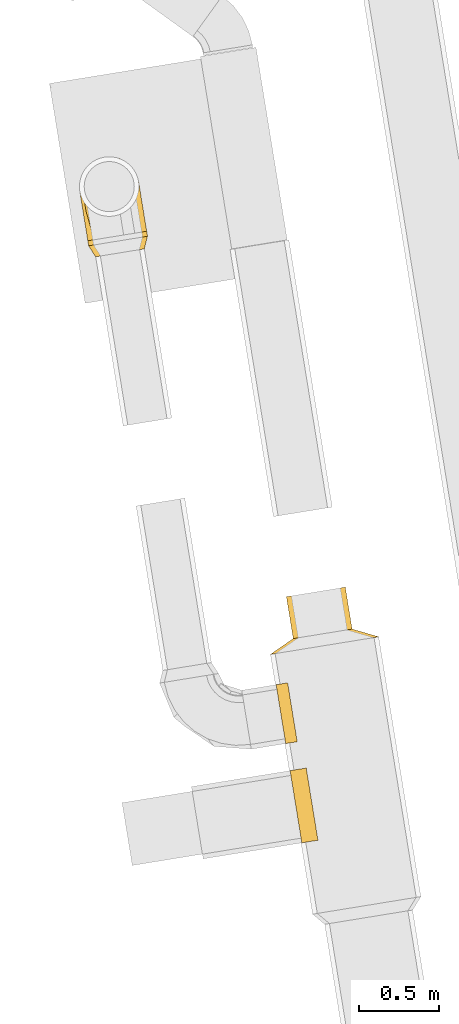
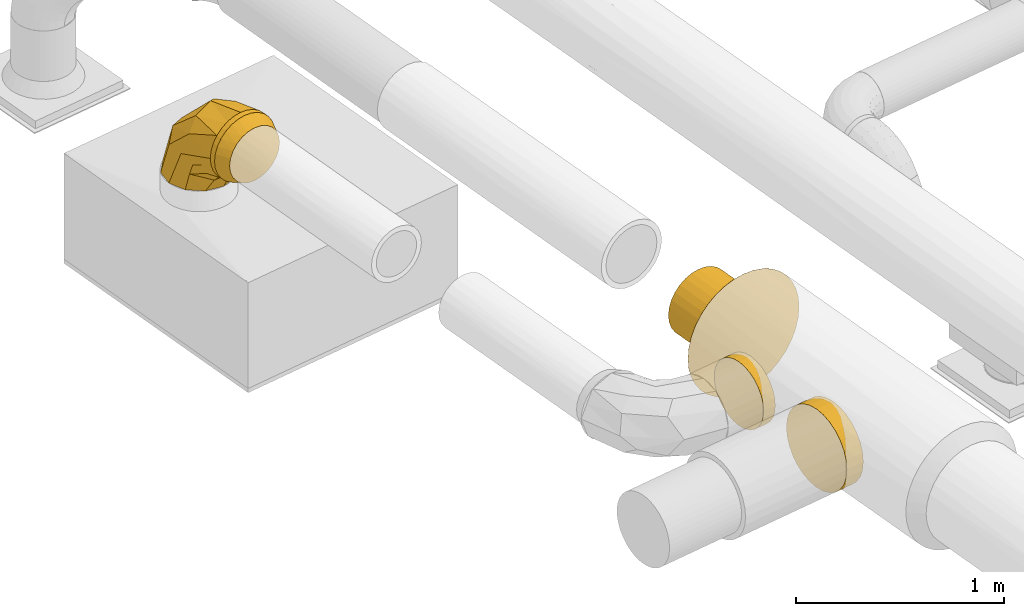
# One storey, part 11 of 39: 7 coverings.
"""IFC2X3 building model written with IfcOpenShell, lengths in millimetres."""

from ifc_helpers import new_model, entity, si_unit, converted_unit, derived_unit, direction, frame, origin, origin_with_axes, place, context, subcontext, project, spatial, faceted_brep, type_object, element, save


model = new_model("IFC2X3")

# Units and contexts
plan_context = context("Plan", 3, precision=1e-05, world=origin_with_axes())
model_context = context("Model", 3, precision=0.01, world=origin(), true_north=direction((6.12323399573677e-17, 1.0)))
body_context = subcontext(model_context, "Body", "Model", "MODEL_VIEW")
ifc_project = project(units=[converted_unit("PLANEANGLEUNIT", "DEGREE", entity("IfcPositiveLengthMeasure", 0.0174532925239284), si_unit("PLANEANGLEUNIT", "RADIAN"), dimensions=[0, 0, 0, 0, 0, 0, 0]), si_unit("AREAUNIT", "SQUARE_METRE"), si_unit("LENGTHUNIT", "METRE", prefix="MILLI"), si_unit("MASSUNIT", "GRAM", prefix="KILO"), si_unit("POWERUNIT", "WATT"), si_unit("PRESSUREUNIT", "PASCAL", prefix="KILO"), si_unit("FORCEUNIT", "NEWTON", prefix="KILO"), si_unit("ELECTRICVOLTAGEUNIT", "VOLT"), si_unit("ELECTRICCURRENTUNIT", "AMPERE"), si_unit("THERMODYNAMICTEMPERATUREUNIT", "DEGREE_CELSIUS"), si_unit("TIMEUNIT", "SECOND"), si_unit("VOLUMEUNIT", "CUBIC_METRE"), derived_unit("LINEARVELOCITYUNIT", [(si_unit("LENGTHUNIT", "METRE"), 1), (si_unit("TIMEUNIT", "SECOND"), -1)]), derived_unit("VOLUMETRICFLOWRATEUNIT", [(si_unit("VOLUMEUNIT", "CUBIC_METRE"), 1), (si_unit("TIMEUNIT", "SECOND"), -1)]), derived_unit("THERMALTRANSMITTANCEUNIT", [(si_unit("POWERUNIT", "WATT"), 1), (si_unit("THERMODYNAMICTEMPERATUREUNIT", "KELVIN"), -1), (si_unit("AREAUNIT", "SQUARE_METRE"), -1)]), derived_unit("SOUNDPRESSUREUNIT", [(si_unit("PRESSUREUNIT", "PASCAL"), 1)])], contexts=[model_context, plan_context])

# Site, building, storey
site_placement = place(None, frame((-0.00071070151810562, 0.00438415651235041, 0.0), z_axis=(0.0, 0.0, 1.0), x_axis=(-0.160236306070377, 0.987078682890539, 0.0)))
site = spatial("IfcSite", under=ifc_project, at=site_placement, Name="Default", CompositionType="ELEMENT")
building_placement = place(site_placement, origin_with_axes())
building = spatial("IfcBuilding", under=site, at=building_placement, CompositionType="ELEMENT")
storey_placement = place(building_placement, frame((0.0, 0.0, 58999.9999999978), z_axis=(0.0, 0.0, 1.0), x_axis=(1.0, 0.0, 0.0)))
storey = spatial("IfcBuildingStorey", under=building, at=storey_placement, Name="Nivå F", CompositionType="ELEMENT", Elevation=58999.9999999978)

# Coverings
covering_type = type_object("IfcCoveringType", Name="Duct Insulation:EI 60-30", PredefinedType="INSULATION")
covering_1_placement = place(storey_placement, frame((779697.619644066, -501493.804889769, 2940.90472776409), z_axis=(0.0, 0.0, 1.0), x_axis=(1.0, 0.0, 0.0)))
element("IfcCovering", 1, at=covering_1_placement, inside=storey, type_object=covering_type, Name="Duct Insulation:EI 60-30", ObjectType="Duct Insulation:EI 60-30", PredefinedType="INSULATION", context=body_context, shape_type="Brep", body=[
    faceted_brep([(0.0, 42.5018692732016, 72.1909343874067), (0.0, 20.1636095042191, 107.742071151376), (0.0, 6.29628870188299, 147.372597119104), (0.0, 1.59527223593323, 189.095272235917), (0.0, 6.29628870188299, 230.817947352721), (0.0, 20.1636095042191, 270.448473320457), (0.0, 42.5018692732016, 305.999610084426), (0.0, 72.1909343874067, 335.688675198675), (0.0, 107.742071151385, 358.026934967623), (0.0, 147.372597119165, 371.894255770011), (0.0, 189.095272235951, 376.595272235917), (0.0, 230.817947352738, 371.894255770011), (0.0, 270.448473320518, 358.026934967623), (0.0, 305.999610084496, 335.688675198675), (0.0, 335.688675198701, 305.999610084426), (0.0, 358.026934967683, 270.448473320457), (0.0, 371.894255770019, 230.817947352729), (0.0, 376.595272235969, 189.095272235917), (0.0, 371.894255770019, 147.372597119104), (0.0, 358.026934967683, 107.742071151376), (0.0, 335.688675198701, 72.1909343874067), (0.0, 305.999610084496, 42.5018692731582), (0.0, 270.448473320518, 20.1636095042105), (0.0, 230.817947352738, 6.29628870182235), (0.0, 189.095272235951, 1.5952722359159), (0.0, 147.372597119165, 6.29628870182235), (0.0, 107.742071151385, 20.1636095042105), (0.0, 72.1909343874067, 42.5018692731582), (32.0, 6.29628870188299, 147.372597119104), (32.0, 20.1636095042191, 107.742071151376), (32.0, 42.5018692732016, 72.1909343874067), (32.0, 72.1909343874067, 42.5018692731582), (32.0, 107.742071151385, 20.1636095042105), (32.0, 147.372597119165, 6.29628870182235), (32.0, 189.095272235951, 1.5952722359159), (32.0, 230.817947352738, 6.29628870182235), (32.0, 270.448473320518, 20.1636095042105), (32.0, 305.999610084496, 42.5018692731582), (32.0, 335.688675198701, 72.1909343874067), (32.0, 358.026934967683, 107.742071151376), (32.0, 371.894255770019, 147.372597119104), (32.0, 376.595272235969, 189.095272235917), (32.0, 371.894255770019, 230.817947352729), (32.0, 358.026934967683, 270.448473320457), (32.0, 335.688675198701, 305.999610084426), (32.0, 305.999610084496, 335.688675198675), (32.0, 270.448473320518, 358.026934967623), (32.0, 230.817947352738, 371.894255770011), (32.0, 189.095272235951, 376.595272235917), (32.0, 147.372597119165, 371.894255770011), (32.0, 107.742071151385, 358.026934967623), (32.0, 72.1909343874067, 335.688675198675), (32.0, 42.5018692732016, 305.999610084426), (32.0, 20.1636095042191, 270.448473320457), (32.0, 6.29628870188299, 230.817947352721), (32.0, 1.59527223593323, 189.095272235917)], [[[0, 1, 2, 3, 4, 5, 6, 7, 8, 9, 10, 11, 12, 13, 14, 15, 16, 17, 18, 19, 20, 21, 22, 23, 24, 25, 26, 27]], [[28, 29, 30, 31, 32, 33, 34, 35, 36, 37, 38, 39, 40, 41, 42, 43, 44, 45, 46, 47, 48, 49, 50, 51, 52, 53, 54, 55]], [[17, 41, 40, 18]], [[40, 39, 19, 18]], [[38, 20, 19, 39]], [[38, 37, 21, 20]], [[37, 36, 22, 21]], [[36, 35, 23, 22]], [[24, 23, 35, 34]], [[24, 34, 33, 25]], [[33, 32, 26, 25]], [[31, 27, 26, 32]], [[31, 30, 0, 27]], [[0, 30, 29, 1]], [[28, 55, 3, 2]], [[1, 29, 28, 2]], [[3, 55, 54, 4]], [[54, 53, 5, 4]], [[52, 6, 5, 53]], [[52, 51, 7, 6]], [[7, 51, 50, 8]], [[50, 49, 9, 8]], [[48, 10, 9, 49]], [[10, 48, 47, 11]], [[47, 46, 12, 11]], [[45, 13, 12, 46]], [[45, 44, 14, 13]], [[14, 44, 43, 15]], [[43, 42, 16, 15]], [[41, 17, 16, 42]]]),
])
covering_2_placement = place(storey_placement, frame((779622.619644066, -501493.804889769, 2940.90472776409), z_axis=(0.0, 0.0, 1.0), x_axis=(1.0, 0.0, 0.0)))
element("IfcCovering", 2, at=covering_2_placement, inside=storey, type_object=covering_type, Name="Duct Insulation:EI 60-30", ObjectType="Duct Insulation:EI 60-30", PredefinedType="INSULATION", context=body_context, shape_type="Brep", body=[
    faceted_brep([(0.0, 344.095272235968, 189.095272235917), (0.0, 338.813775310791, 148.978320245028), (0.0, 323.329209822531, 111.595272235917), (0.0, 298.696823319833, 79.4937211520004), (0.0, 266.59527223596, 54.8613346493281), (0.0, 229.21222422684, 39.3767691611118), (0.0, 189.095272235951, 34.0952722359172), (0.0, 148.978320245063, 39.3767691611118), (0.0, 111.595272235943, 54.8613346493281), (0.0, 79.4937211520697, 79.4937211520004), (0.0, 54.8613346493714, 111.595272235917), (0.0, 39.3767691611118, 148.978320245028), (0.0, 34.0952722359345, 189.095272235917), (0.0, 39.3767691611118, 229.212224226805), (0.0, 54.8613346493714, 266.595272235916), (0.0, 79.4937211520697, 298.696823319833), (0.0, 111.595272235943, 323.329209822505), (0.0, 148.978320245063, 338.813775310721), (0.0, 189.095272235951, 344.095272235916), (0.0, 229.21222422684, 338.813775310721), (0.0, 266.59527223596, 323.329209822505), (0.0, 298.696823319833, 298.696823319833), (0.0, 323.329209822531, 266.595272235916), (0.0, 338.813775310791, 229.212224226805), (75.0, 147.372597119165, 371.894255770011), (75.0, 107.742071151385, 358.026934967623), (75.0, 72.1909343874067, 335.688675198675), (75.0, 42.5018692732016, 305.999610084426), (75.0, 20.1636095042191, 270.448473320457), (75.0, 6.29628870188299, 230.817947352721), (75.0, 1.59527223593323, 189.095272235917), (75.0, 6.29628870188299, 147.372597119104), (75.0, 20.1636095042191, 107.742071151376), (75.0, 42.5018692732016, 72.1909343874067), (75.0, 72.1909343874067, 42.5018692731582), (75.0, 107.742071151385, 20.1636095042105), (75.0, 147.372597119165, 6.29628870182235), (75.0, 189.095272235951, 1.5952722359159), (75.0, 230.817947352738, 6.29628870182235), (75.0, 270.448473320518, 20.1636095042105), (75.0, 305.999610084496, 42.5018692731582), (75.0, 335.688675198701, 72.1909343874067), (75.0, 358.026934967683, 107.742071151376), (75.0, 371.894255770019, 147.372597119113), (75.0, 376.595272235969, 189.095272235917), (75.0, 371.894255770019, 230.817947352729), (75.0, 358.026934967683, 270.448473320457), (75.0, 335.688675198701, 305.999610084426), (75.0, 305.999610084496, 335.688675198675), (75.0, 270.448473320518, 358.026934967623), (75.0, 230.817947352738, 371.894255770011), (75.0, 189.095272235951, 376.595272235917)], [[[0, 1, 2, 3, 4, 5, 6, 7, 8, 9, 10, 11, 12, 13, 14, 15, 16, 17, 18, 19, 20, 21, 22, 23]], [[24, 25, 26, 27, 28, 29, 30, 31, 32, 33, 34, 35, 36, 37, 38, 39, 40, 41, 42, 43, 44, 45, 46, 47, 48, 49, 50, 51]], [[5, 4, 39]], [[6, 5, 38]], [[37, 6, 38]], [[40, 39, 4]], [[5, 39, 38]], [[4, 3, 40]], [[41, 3, 2]], [[1, 0, 43]], [[42, 2, 1]], [[42, 41, 2]], [[43, 42, 1]], [[0, 44, 43]], [[3, 41, 40]], [[11, 10, 32]], [[12, 11, 31]], [[30, 12, 31]], [[33, 32, 10]], [[11, 32, 31]], [[10, 9, 33]], [[34, 9, 8]], [[7, 6, 36]], [[35, 8, 7]], [[35, 34, 8]], [[36, 35, 7]], [[6, 37, 36]], [[9, 34, 33]], [[17, 16, 25]], [[18, 17, 24]], [[51, 18, 24]], [[26, 25, 16]], [[17, 25, 24]], [[16, 15, 26]], [[27, 15, 14]], [[13, 12, 29]], [[28, 14, 13]], [[28, 27, 14]], [[29, 28, 13]], [[12, 30, 29]], [[15, 27, 26]], [[23, 22, 46]], [[0, 23, 45]], [[44, 0, 45]], [[47, 46, 22]], [[23, 46, 45]], [[22, 21, 47]], [[48, 21, 20]], [[19, 18, 50]], [[49, 20, 19]], [[49, 48, 20]], [[50, 49, 19]], [[18, 51, 50]], [[21, 48, 47]]]),
])
covering_3_placement = place(storey_placement, frame((776408.126843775, -501912.152424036, 2940.90472776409), z_axis=(0.0, 0.0, 1.0), x_axis=(1.0, 0.0, 0.0)))
element("IfcCovering", 3, at=covering_3_placement, inside=storey, type_object=covering_type, Name="Duct Insulation:EI 60-30", ObjectType="Duct Insulation:EI 60-30", PredefinedType="INSULATION", context=body_context, shape_type="Brep", body=[
    faceted_brep([(270.448473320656, 0.0, 20.1636095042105), (305.999610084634, 0.0, 42.5018692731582), (335.688675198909, 0.0, 72.1909343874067), (358.026934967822, 0.0, 107.742071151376), (371.894255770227, 0.0, 147.372597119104), (376.595272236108, 0.0, 189.095272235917), (371.894255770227, 0.0, 230.817947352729), (358.026934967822, 0.0, 270.448473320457), (335.688675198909, 0.0, 305.999610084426), (305.999610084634, 0.0, 335.688675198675), (270.448473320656, 0.0, 358.026934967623), (230.817947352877, 0.0, 371.894255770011), (189.095272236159, 0.0, 376.595272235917), (147.372597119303, 0.0, 371.894255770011), (107.742071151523, 0.0, 358.026934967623), (72.1909343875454, 0.0, 335.688675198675), (42.5018692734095, 0.0, 305.999610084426), (20.1636095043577, 0.0, 270.448473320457), (6.29628870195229, 0.0, 230.817947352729), (1.59527223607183, 0.0, 189.095272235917), (6.29628870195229, 0.0, 147.372597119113), (20.1636095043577, 0.0, 107.742071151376), (42.5018692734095, 0.0, 72.1909343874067), (72.1909343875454, 0.0, 42.5018692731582), (107.742071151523, 0.0, 20.1636095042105), (147.372597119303, 0.0, 6.29628870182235), (189.095272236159, 0.0, 1.5952722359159), (230.817947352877, 0.0, 6.29628870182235), (147.372597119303, 73.3177170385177, 371.894255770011), (189.095272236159, 73.3177170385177, 376.595272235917), (230.817947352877, 73.3177170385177, 371.894255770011), (270.448473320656, 73.3177170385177, 358.026934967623), (305.999610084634, 73.3177170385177, 335.688675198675), (335.688675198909, 73.3177170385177, 305.999610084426), (358.026934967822, 73.3177170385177, 270.448473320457), (371.894255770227, 73.3177170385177, 230.817947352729), (376.595272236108, 73.3177170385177, 189.095272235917), (371.894255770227, 73.3177170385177, 147.372597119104), (358.026934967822, 73.3177170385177, 107.742071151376), (335.688675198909, 73.3177170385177, 72.1909343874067), (305.999610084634, 73.3177170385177, 42.5018692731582), (270.448473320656, 73.3177170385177, 20.1636095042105), (230.817947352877, 73.3177170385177, 6.29628870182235), (189.095272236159, 73.3177170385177, 1.5952722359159), (147.372597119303, 73.3177170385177, 6.29628870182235), (107.742071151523, 73.3177170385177, 20.1636095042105), (72.1909343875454, 73.3177170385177, 42.5018692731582), (42.5018692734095, 73.3177170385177, 72.1909343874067), (20.1636095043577, 73.3177170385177, 107.742071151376), (6.29628870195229, 73.3177170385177, 147.372597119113), (1.59527223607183, 73.3177170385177, 189.095272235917), (6.29628870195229, 73.3177170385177, 230.817947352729), (20.1636095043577, 73.3177170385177, 270.448473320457), (42.5018692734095, 73.3177170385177, 305.999610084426), (72.1909343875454, 73.3177170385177, 335.688675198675), (107.742071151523, 73.3177170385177, 358.026934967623)], [[[0, 1, 2, 3, 4, 5, 6, 7, 8, 9, 10, 11, 12, 13, 14, 15, 16, 17, 18, 19, 20, 21, 22, 23, 24, 25, 26, 27]], [[28, 29, 30, 31, 32, 33, 34, 35, 36, 37, 38, 39, 40, 41, 42, 43, 44, 45, 46, 47, 48, 49, 50, 51, 52, 53, 54, 55]], [[6, 5, 36, 35]], [[35, 34, 7, 6]], [[33, 8, 7, 34]], [[33, 32, 9, 8]], [[10, 9, 32, 31]], [[10, 31, 30, 11]], [[11, 30, 29, 12]], [[13, 12, 29, 28]], [[28, 55, 14, 13]], [[54, 15, 14, 55]], [[54, 53, 16, 15]], [[53, 52, 17, 16]], [[52, 51, 18, 17]], [[18, 51, 50, 19]], [[20, 19, 50, 49]], [[49, 48, 21, 20]], [[47, 22, 21, 48]], [[47, 46, 23, 22]], [[24, 23, 46, 45]], [[44, 43, 26, 25]], [[24, 45, 44, 25]], [[27, 26, 43, 42]], [[42, 41, 0, 27]], [[40, 1, 0, 41]], [[40, 39, 2, 1]], [[3, 2, 39, 38]], [[4, 3, 38, 37]], [[4, 37, 36, 5]]]),
])
covering_4_placement = place(storey_placement, frame((779728.02437183, -501493.804889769, 3319.09527223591), z_axis=(0.0, 0.0, 1.0), x_axis=(1.0, 0.0, 0.0)))
element("IfcCovering", 4, at=covering_4_placement, inside=storey, type_object=covering_type, Name="Duct Insulation:EI 60-30", ObjectType="Duct Insulation:EI 60-30", PredefinedType="INSULATION", context=body_context, shape_type="Brep", body=[
    faceted_brep([(316.595272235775, 376.595272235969, -504.095272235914), (410.343734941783, 351.475922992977, -504.095272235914), (478.973322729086, 282.848238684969, -504.095272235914), (504.095272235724, 189.095272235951, -504.095272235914), (478.975922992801, 95.3468095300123, -504.095272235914), (410.348238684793, 26.7172217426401, -504.095272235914), (363.471755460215, 14.156246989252, -504.095272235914), (316.595272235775, 1.59527223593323, -504.095272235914), (222.846809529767, 26.7146214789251, -504.095272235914), (154.217221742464, 95.3423057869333, -504.095272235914), (129.095272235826, 189.095272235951, -504.095272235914), (154.214621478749, 282.84373494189, -504.095272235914), (222.842305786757, 351.473322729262, -504.095272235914), (1.59527223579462, 376.595272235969, -189.095272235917), (1.59527223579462, 344.324637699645, -256.105935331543), (1.59527223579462, 305.999610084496, -335.688675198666), (1.59527223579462, 247.547441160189, -356.1419737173), (1.59527223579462, 189.095272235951, -376.595272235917), (1.59527223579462, 111.583658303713, -339.267646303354), (1.59527223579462, 42.5018692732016, -305.999610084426), (1.59527223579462, 25.8169000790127, -258.316707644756), (1.59527223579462, 1.59527223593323, -189.095272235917), (1.59527223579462, 36.89310331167, -115.798570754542), (1.59527223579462, 72.1909343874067, -42.5018692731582), (1.59527223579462, 189.095272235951, -1.5952722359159), (1.59527223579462, 262.391973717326, -36.8931033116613), (1.59527223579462, 335.688675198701, -72.1909343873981), (229.725498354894, 189.095272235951, -56.3644938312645), (208.378214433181, 297.428260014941, -84.2153930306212), (183.965775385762, 357.605602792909, -151.211987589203), (224.333908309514, 376.595272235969, -281.356636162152), (154.022949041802, 376.595272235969, -252.232883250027), (83.7119897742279, 376.595272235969, -223.109130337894), (376.606377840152, 303.528100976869, -231.648198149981), (339.525774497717, 189.095272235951, -166.164769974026), (336.325760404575, 359.105052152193, -296.126644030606), (449.326050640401, 189.095272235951, -275.965046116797), (282.581411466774, 376.595272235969, -421.978548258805), (253.457659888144, 376.595272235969, -351.667592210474), (123.259939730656, 253.642235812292, -436.955846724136), (83.9256535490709, 360.59331927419, -279.503620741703), (64.297934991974, 255.68628872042, -379.231327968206), (76.5378919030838, 189.095272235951, -400.945605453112), (103.284122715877, 316.069916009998, -359.175967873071), (192.193356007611, 350.39094639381, -395.433577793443), (153.778387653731, 361.559298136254, -316.66745217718), (83.7119897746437, 1.59527223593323, -223.109130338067), (154.022949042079, 1.59527223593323, -252.232883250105), (193.955884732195, 31.4670636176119, -411.552347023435), (123.26080186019, 124.545142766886, -436.955006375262), (120.131940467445, 43.0318262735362, -346.205064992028), (224.333908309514, 1.59527223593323, -281.356636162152), (71.9422894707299, 108.909319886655, -376.718672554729), (282.581411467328, 1.59527223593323, -421.978548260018), (253.457659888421, 1.59527223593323, -351.667592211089), (202.908650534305, 57.5624639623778, -103.175820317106), (289.585853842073, 21.7979681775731, -226.981360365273), (291.588624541, 119.264995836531, -110.349100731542), (376.616702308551, 74.6651446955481, -231.65886909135), (376.840757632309, 23.9700859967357, -354.878489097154)], [[[0, 1, 2, 3, 4, 5, 6, 7, 8, 9, 10, 11, 12]], [[13, 14, 15, 16, 17, 18, 19, 20, 21, 22, 23, 24, 25, 26]], [[25, 27, 28]], [[28, 29, 26]], [[29, 13, 26]], [[29, 30, 31, 32, 13]], [[33, 29, 28]], [[25, 24, 27]], [[28, 34, 33]], [[35, 29, 33]], [[36, 3, 2]], [[29, 35, 30]], [[35, 0, 37, 38, 30]], [[33, 2, 1]], [[0, 35, 1]], [[33, 1, 35]], [[28, 26, 25]], [[33, 36, 2]], [[34, 28, 27]], [[34, 36, 33]], [[11, 10, 39]], [[14, 13, 32]], [[40, 32, 31]], [[41, 39, 42]], [[40, 15, 14]], [[40, 14, 32]], [[37, 0, 12, 38]], [[40, 43, 15]], [[12, 44, 38]], [[42, 39, 10]], [[11, 44, 12]], [[40, 45, 43]], [[39, 44, 11]], [[16, 15, 41, 17]], [[45, 44, 43]], [[41, 15, 43]], [[44, 39, 43]], [[44, 30, 38]], [[45, 31, 30]], [[31, 45, 40]], [[44, 45, 30]], [[39, 41, 43]], [[17, 41, 42]], [[46, 21, 20, 19, 47]], [[48, 49, 9]], [[50, 51, 47]], [[9, 8, 48]], [[52, 17, 42]], [[52, 49, 50]], [[18, 50, 19]], [[8, 7, 53, 54]], [[48, 50, 49]], [[51, 50, 48]], [[49, 52, 42]], [[42, 10, 49]], [[8, 54, 48]], [[49, 10, 9]], [[51, 48, 54]], [[50, 18, 52]], [[17, 52, 18]], [[47, 19, 50]], [[55, 23, 22]], [[22, 21, 56]], [[24, 23, 27]], [[36, 57, 58]], [[58, 5, 4]], [[58, 55, 56]], [[7, 6, 5, 59]], [[23, 57, 27]], [[57, 36, 34, 27]], [[59, 51, 54, 53, 7]], [[36, 4, 3]], [[36, 58, 4]], [[57, 55, 58]], [[55, 57, 23]], [[22, 56, 55]], [[59, 58, 56]], [[56, 21, 46, 47, 51]], [[58, 59, 5]], [[59, 56, 51]]]),
])
covering_5_placement = place(storey_placement, frame((777053.610474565, -502367.929977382, 2940.93888074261), z_axis=(0.0, 0.0, 1.0), x_axis=(1.0, 0.0, 0.0)))
element("IfcCovering", 5, at=covering_5_placement, inside=storey, type_object=covering_type, Name="Duct Insulation:EI 60-30", ObjectType="Duct Insulation:EI 60-30", PredefinedType="INSULATION", context=body_context, shape_type="Brep", body=[
    faceted_brep([(0.0, 42.5018692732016, 72.1909343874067), (0.0, 20.1636095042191, 107.742071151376), (0.0, 6.29628870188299, 147.372597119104), (0.0, 1.59527223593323, 189.095272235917), (0.0, 6.29628870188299, 230.817947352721), (0.0, 20.1636095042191, 270.448473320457), (0.0, 42.5018692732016, 305.999610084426), (0.0, 72.1909343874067, 335.688675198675), (0.0, 107.742071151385, 358.026934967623), (0.0, 147.372597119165, 371.894255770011), (0.0, 189.095272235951, 376.595272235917), (0.0, 230.817947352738, 371.894255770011), (0.0, 270.448473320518, 358.026934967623), (0.0, 305.999610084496, 335.688675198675), (0.0, 335.688675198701, 305.999610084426), (0.0, 358.026934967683, 270.448473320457), (0.0, 371.894255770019, 230.817947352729), (0.0, 376.595272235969, 189.095272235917), (0.0, 371.894255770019, 147.372597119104), (0.0, 358.026934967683, 107.742071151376), (0.0, 335.688675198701, 72.1909343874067), (0.0, 305.999610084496, 42.5018692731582), (0.0, 270.448473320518, 20.1636095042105), (0.0, 230.817947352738, 6.29628870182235), (0.0, 189.095272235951, 1.5952722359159), (0.0, 147.372597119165, 6.29628870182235), (0.0, 107.742071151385, 20.1636095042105), (0.0, 72.1909343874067, 42.5018692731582), (266.866288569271, 6.29628870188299, 147.372597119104), (266.866288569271, 20.1636095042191, 107.742071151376), (266.866288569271, 42.5018692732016, 72.1909343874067), (266.866288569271, 72.1909343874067, 42.5018692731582), (266.866288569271, 107.742071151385, 20.1636095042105), (266.866288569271, 147.372597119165, 6.29628870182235), (266.866288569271, 189.095272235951, 1.5952722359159), (266.866288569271, 230.817947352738, 6.29628870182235), (266.866288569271, 270.448473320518, 20.1636095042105), (266.866288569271, 305.999610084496, 42.5018692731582), (266.866288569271, 335.688675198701, 72.1909343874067), (266.866288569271, 358.026934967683, 107.742071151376), (266.866288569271, 371.894255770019, 147.372597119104), (266.866288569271, 376.595272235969, 189.095272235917), (266.866288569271, 371.894255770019, 230.817947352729), (266.866288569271, 358.026934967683, 270.448473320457), (266.866288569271, 335.688675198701, 305.999610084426), (266.866288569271, 305.999610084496, 335.688675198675), (266.866288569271, 270.448473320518, 358.026934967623), (266.866288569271, 230.817947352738, 371.894255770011), (266.866288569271, 189.095272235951, 376.595272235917), (266.866288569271, 147.372597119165, 371.894255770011), (266.866288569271, 107.742071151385, 358.026934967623), (266.866288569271, 72.1909343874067, 335.688675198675), (266.866288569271, 42.5018692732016, 305.999610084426), (266.866288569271, 20.1636095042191, 270.448473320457), (266.866288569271, 6.29628870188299, 230.817947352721), (266.866288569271, 1.59527223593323, 189.095272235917)], [[[0, 1, 2, 3, 4, 5, 6, 7, 8, 9, 10, 11, 12, 13, 14, 15, 16, 17, 18, 19, 20, 21, 22, 23, 24, 25, 26, 27]], [[28, 29, 30, 31, 32, 33, 34, 35, 36, 37, 38, 39, 40, 41, 42, 43, 44, 45, 46, 47, 48, 49, 50, 51, 52, 53, 54, 55]], [[41, 40, 18, 17]], [[39, 38, 20, 19]], [[40, 39, 19, 18]], [[38, 37, 21, 20]], [[22, 21, 37, 36]], [[23, 22, 36, 35]], [[24, 23, 35, 34]], [[25, 24, 34, 33]], [[26, 25, 33, 32]], [[27, 26, 32, 31]], [[31, 30, 0, 27]], [[1, 0, 30, 29]], [[2, 1, 29, 28]], [[3, 2, 28, 55]], [[4, 3, 55, 54]], [[5, 4, 54, 53]], [[6, 5, 53, 52]], [[52, 51, 7, 6]], [[8, 7, 51, 50]], [[9, 8, 50, 49]], [[10, 9, 49, 48]], [[11, 10, 48, 47]], [[12, 11, 47, 46]], [[13, 12, 46, 45]], [[45, 44, 14, 13]], [[15, 14, 44, 43]], [[16, 15, 43, 42]], [[17, 16, 42, 41]]]),
])
covering_6_placement = place(storey_placement, frame((776978.610474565, -502525.429977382, 2783.43888074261), z_axis=(0.0, 0.0, 1.0), x_axis=(1.0, 0.0, 0.0)))
element("IfcCovering", 6, at=covering_6_placement, inside=storey, type_object=covering_type, Name="Duct Insulation:EI 60-30", ObjectType="Duct Insulation:EI 60-30", PredefinedType="INSULATION", context=body_context, shape_type="Brep", body=[
    faceted_brep([(0.0, 519.095272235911, 645.374036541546), (0.0, 568.356997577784, 610.880605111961), (0.0, 610.880605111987, 568.356997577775), (0.0, 645.374036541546, 519.09527223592), (0.0, 670.789226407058, 464.592221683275), (0.0, 686.353947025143, 406.503893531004), (0.0, 691.59527223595, 346.595272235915), (0.0, 686.353947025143, 286.686650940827), (0.0, 670.789226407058, 228.598322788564), (0.0, 645.374036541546, 174.09527223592), (0.0, 610.880605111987, 124.833546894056), (0.0, 568.356997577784, 82.3099393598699), (0.0, 519.095272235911, 47.8165079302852), (0.0, 464.592221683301, 22.4013180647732), (0.0, 406.503893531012, 6.83659744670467), (0.0, 346.595272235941, 1.5952722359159), (0.0, 286.686650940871, 6.83659744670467), (0.0, 228.598322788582, 22.4013180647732), (0.0, 174.095272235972, 47.8165079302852), (0.0, 124.833546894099, 82.3099393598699), (0.0, 82.3099393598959, 124.833546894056), (0.0, 47.8165079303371, 174.095272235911), (0.0, 22.4013180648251, 228.598322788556), (0.0, 6.83659744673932, 286.686650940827), (0.0, 1.59527223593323, 346.595272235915), (0.0, 6.83659744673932, 406.503893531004), (0.0, 22.4013180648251, 464.592221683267), (0.0, 47.8165079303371, 519.095272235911), (0.0, 82.3099393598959, 568.356997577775), (0.0, 124.833546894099, 610.880605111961), (0.0, 174.095272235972, 645.374036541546), (0.0, 228.598322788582, 670.789226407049), (0.0, 286.686650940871, 686.353947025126), (0.0, 346.595272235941, 691.595272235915), (0.0, 406.503893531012, 686.353947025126), (0.0, 464.592221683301, 670.789226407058), (75.0, 304.872597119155, 529.39425577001), (75.0, 265.242071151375, 515.526934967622), (75.0, 229.690934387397, 493.188675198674), (75.0, 200.001869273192, 463.499610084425), (75.0, 177.663609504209, 427.948473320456), (75.0, 163.796288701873, 388.31794735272), (75.0, 159.095272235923, 346.595272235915), (75.0, 163.796288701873, 304.872597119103), (75.0, 177.663609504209, 265.242071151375), (75.0, 200.001869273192, 229.690934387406), (75.0, 229.690934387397, 200.001869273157), (75.0, 265.242071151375, 177.663609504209), (75.0, 304.872597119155, 163.796288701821), (75.0, 346.595272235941, 159.095272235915), (75.0, 388.317947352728, 163.796288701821), (75.0, 427.948473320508, 177.663609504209), (75.0, 463.499610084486, 200.001869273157), (75.0, 493.188675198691, 229.690934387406), (75.0, 515.526934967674, 265.242071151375), (75.0, 529.39425577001, 304.872597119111), (75.0, 534.095272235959, 346.595272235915), (75.0, 529.39425577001, 388.317947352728), (75.0, 515.526934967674, 427.948473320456), (75.0, 493.188675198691, 463.499610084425), (75.0, 463.499610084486, 493.188675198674), (75.0, 427.948473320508, 515.526934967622), (75.0, 388.317947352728, 529.39425577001), (75.0, 346.595272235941, 534.095272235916)], [[[0, 1, 2, 3, 4, 5, 6, 7, 8, 9, 10, 11, 12, 13, 14, 15, 16, 17, 18, 19, 20, 21, 22, 23, 24, 25, 26, 27, 28, 29, 30, 31, 32, 33, 34, 35]], [[36, 37, 38, 39, 40, 41, 42, 43, 44, 45, 46, 47, 48, 49, 50, 51, 52, 53, 54, 55, 56, 57, 58, 59, 60, 61, 62, 63]], [[7, 56, 55]], [[54, 53, 9]], [[8, 55, 54]], [[6, 56, 7]], [[9, 8, 54]], [[10, 9, 53]], [[55, 8, 7]], [[53, 52, 11, 10]], [[12, 52, 51]], [[13, 51, 50]], [[14, 50, 49]], [[11, 52, 12]], [[13, 12, 51]], [[50, 14, 13]], [[49, 15, 14]], [[16, 49, 48]], [[47, 46, 18]], [[17, 48, 47]], [[15, 49, 16]], [[18, 17, 47]], [[19, 18, 46]], [[48, 17, 16]], [[46, 45, 20, 19]], [[21, 45, 44]], [[22, 44, 43]], [[23, 43, 42]], [[20, 45, 21]], [[22, 21, 44]], [[43, 23, 22]], [[42, 24, 23]], [[25, 42, 41]], [[40, 39, 27]], [[26, 41, 40]], [[24, 42, 25]], [[27, 26, 40]], [[28, 27, 39]], [[41, 26, 25]], [[39, 38, 29, 28]], [[30, 38, 37]], [[31, 37, 36]], [[32, 36, 63]], [[29, 38, 30]], [[31, 30, 37]], [[36, 32, 31]], [[63, 33, 32]], [[34, 63, 62]], [[61, 60, 0]], [[35, 62, 61]], [[33, 63, 34]], [[0, 35, 61]], [[1, 0, 60]], [[62, 35, 34]], [[60, 59, 2, 1]], [[3, 59, 58]], [[4, 58, 57]], [[5, 57, 56]], [[2, 59, 3]], [[4, 3, 58]], [[57, 5, 4]], [[56, 6, 5]]]),
])
covering_7_placement = place(storey_placement, frame((775775.626843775, -501941.596906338, 2898.40472776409), z_axis=(0.0, 0.0, 1.0), x_axis=(1.0, 0.0, 0.0)))
element("IfcCovering", 7, at=covering_7_placement, inside=storey, type_object=covering_type, Name="Duct Insulation:EI 60-30", ObjectType="Duct Insulation:EI 60-30", PredefinedType="INSULATION", context=body_context, shape_type="Brep", body=[
    faceted_brep([(331.388532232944, 0.0, 24.3724326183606), (374.997926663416, 0.0, 51.774031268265), (411.416513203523, 0.0, 88.1926178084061), (438.81811185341, 0.0, 131.802012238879), (455.828692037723, 0.0, 180.415457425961), (461.595272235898, 0.0, 231.595272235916), (455.828692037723, 0.0, 282.77508704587), (438.81811185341, 0.0, 331.388532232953), (411.416513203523, 0.0, 374.997926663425), (374.997926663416, 0.0, 411.416513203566), (331.388532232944, 0.0, 438.818111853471), (282.775087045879, 0.0, 455.828692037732), (231.595272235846, 0.0, 461.595272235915), (180.415457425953, 0.0, 455.828692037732), (131.802012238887, 0.0, 438.818111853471), (88.1926178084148, 0.0, 411.416513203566), (51.7740312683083, 0.0, 374.997926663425), (24.3724326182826, 0.0, 331.388532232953), (7.36185243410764, 0.0, 282.77508704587), (1.59527223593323, 0.0, 231.595272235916), (7.36185243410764, 0.0, 180.415457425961), (24.3724326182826, 0.0, 131.802012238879), (51.7740312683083, 0.0, 88.1926178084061), (88.1926178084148, 0.0, 51.774031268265), (131.802012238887, 0.0, 24.3724326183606), (180.415457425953, 0.0, 7.36185243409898), (231.595272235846, 0.0, 1.5952722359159), (282.775087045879, 0.0, 7.36185243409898), (231.595272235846, 102.762199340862, 461.595272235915), (282.775087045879, 102.762199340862, 455.828692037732), (331.388532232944, 102.762199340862, 438.818111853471), (374.997926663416, 102.762199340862, 411.416513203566), (411.416513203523, 102.762199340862, 374.997926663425), (438.81811185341, 102.762199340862, 331.388532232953), (455.828692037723, 102.762199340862, 282.77508704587), (461.595272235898, 102.762199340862, 231.595272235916), (455.828692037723, 102.762199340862, 180.415457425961), (438.81811185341, 102.762199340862, 131.802012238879), (411.416513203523, 102.762199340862, 88.1926178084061), (374.997926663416, 102.762199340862, 51.774031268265), (331.388532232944, 102.762199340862, 24.3724326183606), (282.775087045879, 102.762199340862, 7.36185243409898), (231.595272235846, 102.762199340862, 1.5952722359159), (180.415457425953, 102.762199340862, 7.36185243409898), (131.802012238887, 102.762199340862, 24.3724326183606), (88.1926178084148, 102.762199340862, 51.774031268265), (51.7740312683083, 102.762199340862, 88.1926178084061), (24.3724326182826, 102.762199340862, 131.802012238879), (7.36185243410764, 102.762199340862, 180.415457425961), (1.59527223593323, 102.762199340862, 231.595272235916), (7.36185243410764, 102.762199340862, 282.77508704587), (24.3724326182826, 102.762199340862, 331.388532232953), (51.7740312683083, 102.762199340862, 374.997926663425), (88.1926178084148, 102.762199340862, 411.416513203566), (131.802012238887, 102.762199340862, 438.818111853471), (180.415457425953, 102.762199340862, 455.828692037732)], [[[0, 1, 2, 3, 4, 5, 6, 7, 8, 9, 10, 11, 12, 13, 14, 15, 16, 17, 18, 19, 20, 21, 22, 23, 24, 25, 26, 27]], [[28, 29, 30, 31, 32, 33, 34, 35, 36, 37, 38, 39, 40, 41, 42, 43, 44, 45, 46, 47, 48, 49, 50, 51, 52, 53, 54, 55]], [[6, 5, 35, 34]], [[34, 33, 7, 6]], [[32, 8, 7, 33]], [[32, 31, 9, 8]], [[9, 31, 30, 10]], [[10, 30, 29, 11]], [[11, 29, 28, 12]], [[13, 12, 28, 55]], [[54, 53, 15, 14]], [[14, 13, 55, 54]], [[53, 52, 16, 15]], [[16, 52, 51, 17]], [[17, 51, 50, 18]], [[18, 50, 49, 19]], [[49, 48, 20, 19]], [[47, 46, 22, 21]], [[48, 47, 21, 20]], [[46, 45, 23, 22]], [[23, 45, 44, 24]], [[24, 44, 43, 25]], [[25, 43, 42, 26]], [[42, 41, 27, 26]], [[41, 40, 0, 27]], [[0, 40, 39, 1]], [[39, 38, 2, 1]], [[2, 38, 37, 3]], [[3, 37, 36, 4]], [[4, 36, 35, 5]]]),
])

save(model, "model.ifc")
